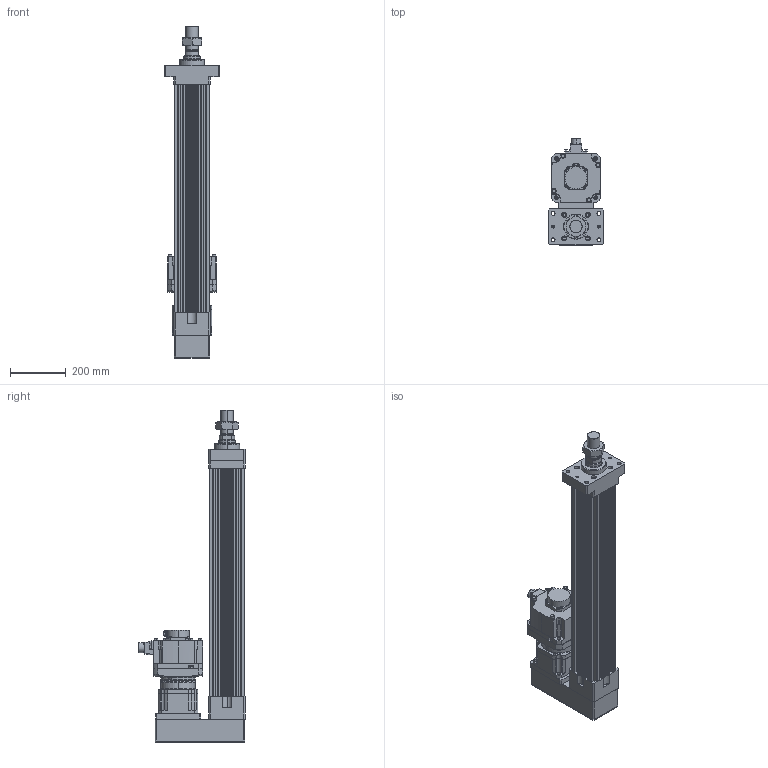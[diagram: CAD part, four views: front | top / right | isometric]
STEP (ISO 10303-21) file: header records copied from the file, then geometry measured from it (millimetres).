
FILE_DESCRIPTION (( 'STEP AP203' ), '1' );
FILE_NAME ('HES130FS(HS)-P600-W020G00-M-FMA.STEP', '2023-01-30T06:41:44', ( 'tms' ), ( '' ), 'SwSTEP 2.0', 'SolidWorks 2013', '' );
FILE_SCHEMA (( 'CONFIG_CONTROL_DESIGN' ));
Length unit declared in the file: millimetre
Products named in the file (9): AB142-003[HG-SR352]; HES130 ROD M ST600; HES130-P600-G142-FMA; M45X1.5P; AB1421; P0403500801; HG-SR202; P1301500001; HES130FS(HS)-P600-W020G00-M-FMA
Assembly tree (8 placements, depth 3):
  HES130FS(HS)-P600-W020G00-M-FMA
    HES130-P600-G142-FMA
    HES130 ROD M ST600
    M45X1.5P
    AB142-003[HG-SR352]
      AB1421
      P1301500001
      P0403500801
    HG-SR202
Bounding box: 200 x 381.85 x 1194 mm (x, y, z)
Volume: 15299048.9 mm3; surface area: 1838879.6 mm2
Topology: 4 solids, 18 shells, 1401 faces, 3660 edges, 2370 vertices
Faces by surface type: cylinder 643, plane 530, cone 146, bspline 76, torus 6
Entity records: 52014 total; most frequent: CARTESIAN_POINT 16222, DIRECTION 7460, ORIENTED_EDGE 7222, EDGE_CURVE 3633, AXIS2_PLACEMENT_3D 2825, VERTEX_POINT 2370, VECTOR 1810, LINE 1810
